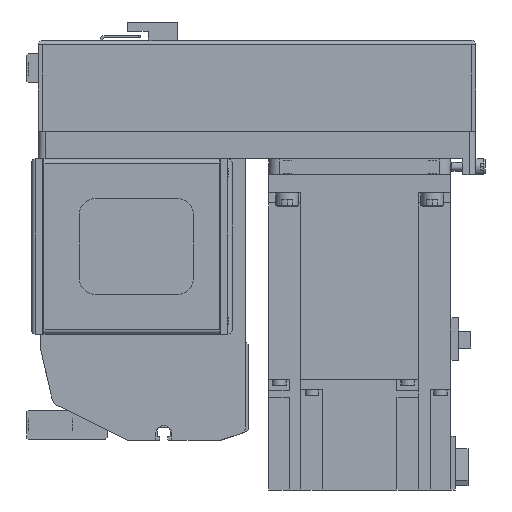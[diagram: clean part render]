
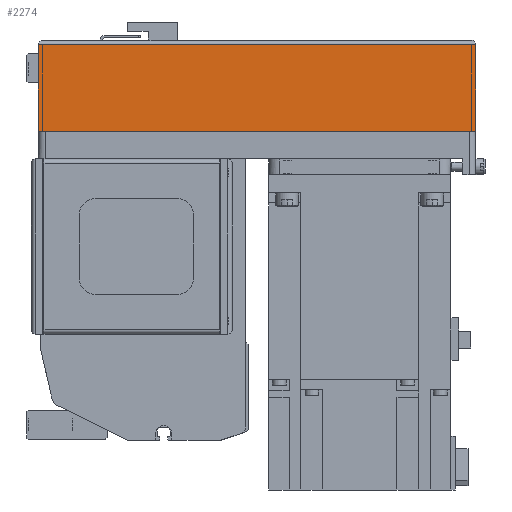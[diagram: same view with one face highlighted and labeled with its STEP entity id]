
A CAD part, left-side view. The second image highlights one B-rep face of the part: STEP entity #2274.
In plain terms, the highlighted planar face has unit normal (-1, 0, 0) as drawn and (0, -1, 0) by its records, which use the part's own axes.
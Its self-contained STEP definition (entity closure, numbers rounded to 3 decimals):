
#2274 = ADVANCED_FACE( '', ( #5125 ), #5126, .T. );
#5125 = FACE_OUTER_BOUND( '', #8557, .T. );
#5126 = PLANE( '', #8558 );
#8557 = EDGE_LOOP( '', ( #14910, #14911, #14912, #14913 ) );
#8558 = AXIS2_PLACEMENT_3D( '', #14914, #14915, #14916 );
#14910 = ORIENTED_EDGE( '', *, *, #21891, .F. );
#14911 = ORIENTED_EDGE( '', *, *, #20554, .F. );
#14912 = ORIENTED_EDGE( '', *, *, #21892, .T. );
#14913 = ORIENTED_EDGE( '', *, *, #21893, .T. );
#14914 = CARTESIAN_POINT( '', ( -192., -40., -12.1 ) );
#14915 = DIRECTION( '', ( 0., -1., 0. ) );
#14916 = DIRECTION( '', ( 0., 0., -1. ) );
#20554 = EDGE_CURVE( '', #24967, #24968, #24969, .T. );
#21891 = EDGE_CURVE( '', #24968, #23526, #26994, .T. );
#21892 = EDGE_CURVE( '', #24967, #26025, #26995, .T. );
#21893 = EDGE_CURVE( '', #26025, #23526, #26996, .T. );
#23526 = VERTEX_POINT( '', #29078 );
#24967 = VERTEX_POINT( '', #31378 );
#24968 = VERTEX_POINT( '', #31379 );
#24969 = LINE( '', #31380, #31381 );
#26025 = VERTEX_POINT( '', #32899 );
#26994 = LINE( '', #34499, #34500 );
#26995 = LINE( '', #34501, #34502 );
#26996 = LINE( '', #34503, #34504 );
#29078 = CARTESIAN_POINT( '', ( 0., -40., -50. ) );
#31378 = CARTESIAN_POINT( '', ( -192., -40., -12.1 ) );
#31379 = CARTESIAN_POINT( '', ( 0., -40., -12.1 ) );
#31380 = CARTESIAN_POINT( '', ( -192., -40., -12.1 ) );
#31381 = VECTOR( '', #37808, 1000. );
#32899 = CARTESIAN_POINT( '', ( -192., -40., -50. ) );
#34499 = CARTESIAN_POINT( '', ( 0., -40., -12.1 ) );
#34500 = VECTOR( '', #39444, 1000. );
#34501 = CARTESIAN_POINT( '', ( -192., -40., -12.1 ) );
#34502 = VECTOR( '', #39445, 1000. );
#34503 = CARTESIAN_POINT( '', ( -192., -40., -50. ) );
#34504 = VECTOR( '', #39446, 1000. );
#37808 = DIRECTION( '', ( 1., 0., 0. ) );
#39444 = DIRECTION( '', ( 0., 0., -1. ) );
#39445 = DIRECTION( '', ( 0., 0., -1. ) );
#39446 = DIRECTION( '', ( 1., 0., 0. ) );
